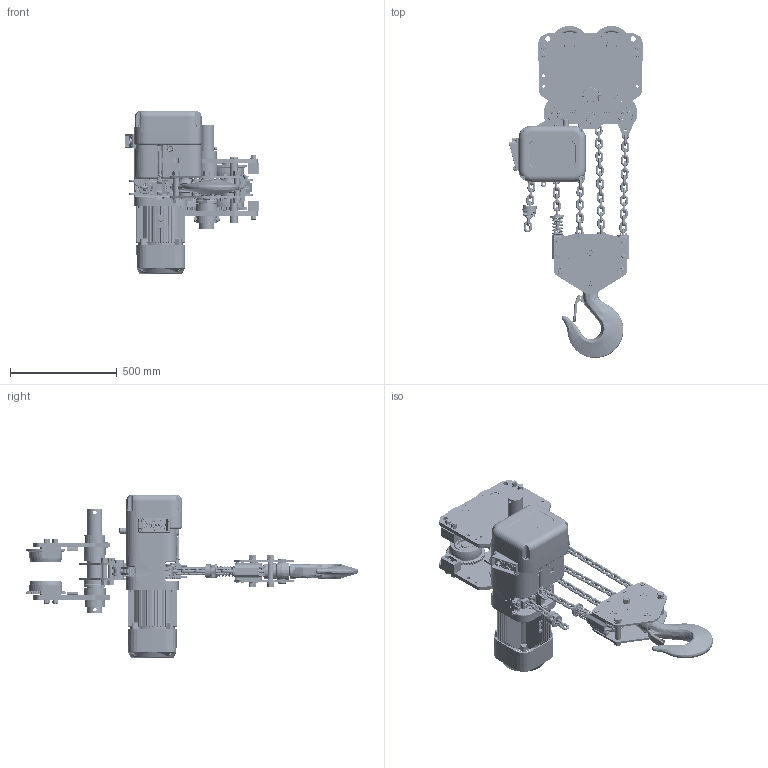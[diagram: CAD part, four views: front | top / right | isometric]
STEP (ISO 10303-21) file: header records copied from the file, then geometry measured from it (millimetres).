
FILE_DESCRIPTION (( 'STEP AP214' ), '1' );
FILE_NAME ('NER2P100L.STEP', '2026-08-05T15:16:40', ( '' ), ( '' ), 'SwSTEP 2.0', 'SolidWorks 2026', '' );
FILE_SCHEMA (( 'AUTOMOTIVE_DESIGN' ));
Length unit declared in the file: inch
Products named in the file (104): ER1HS90161; single coil rectangular section spring washer_bsi2_9012711; ER2BHM20I9A5; E6SE075S90663; MS561010; ER2HS90061; ER2FS9104_ER2FS9104; T3GA1009101; ER1EM9051; LCER2025 NP (SHAPED 2)_For SCC; 9012717_9012717; ER2FS9331; E6S023100; ER1HS90091; ER2BHM1QS9A6; 9012715_9012715; ER2IS50041; ER1EM9053; 9091255_9091255; ER2FS9105; LCER2025NP; PTS100_7" FLANGE; 9091271_9091271; socket head cap screw_am_9091274; T3GB1005112; ER2HS50521; ES558003; ER2IS91211; ES127005S; 9009436_9009436; 6308Z Bearing; T3GA1009112; ER2FS6122; hex nut style 1_am_9093445; basic internal retaining ring_am_J1SR000-00090; ER1FH9054; E3S111003; spring lock washer_2_jis_9012717; 9091254_9091254; T3GA1005111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
Assembly tree (331 placements, depth 4):
  NER2P100L
    ER2HS50051
      ER2HS90061
      ER1HS90161  x2
      ER2HS90051
    ER2IS50041
      ER2IS90041
      MAKESP-578293-03  x2
    ER2IS50031
      ER2IS90031
      ER1HS90091  x2
    E7SE075S90071  x4
    E6SE075S90081  x4
    ER1IL90171
    ER2025S_NO SUSPENDER
      ER2FS9104_ER2FS9104
      ER2FS9103
      ER2FS9101
      ER2FS9105
      ER2ES9107_ER2ES9107
      ER2FS9331
      ER2FS9338
      ER2FS9337
      ER2CS9357
      single coil rectangular section spring washer_bsi2_9012711  x4
      socket head cap screw_am_9091274  x4
      9091255_9091255  x4
      90912116_90912116  x4
      external tooth lock washer_am_PreviewCfg  x4
      9091254_9091254  x4
      ES127005S
      E3S112003
      E3S111003
      ER2EI4511
        ER2CS9511
        MS561010  x8
        ER2EI2523
        ER2EI2564
        ES558003  x8
      ER2FS6121
      ER2FS6122
      ER1EM9053
      ER1ES1041
      LCER2025 NP (SHAPED 2)_For SCC
        LCER2025NP  x12
      ER2BHM20I9A5
      ER2FS9296
      ER1BS1175
      ER2BHM1QS9A6
    E6SE075S90531
    ER1HS90561  x3
    9012711_9012711  x6
    9091271_9091271  x6
    9012717_9012717  x8
    9093445_9093445  x8
    PTS100_7" FLANGE
      T3GB1005112
        T3GA1009112
        T3GA1009118
        M6SE100S9114
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Bounding box: 628 x 1556.28 x 764.6 mm (x, y, z)
Volume: 53132336.1 mm3; surface area: 6224609.5 mm2
Topology: 335 solids, 355 shells, 12721 faces, 32093 edges, 20025 vertices
Faces by surface type: cylinder 4725, plane 4024, torus 1387, cone 1342, bspline 966, sphere 277
Entity records: 258852 total; most frequent: CARTESIAN_POINT 94779, DIRECTION 33170, ORIENTED_EDGE 32952, EDGE_CURVE 16478, AXIS2_PLACEMENT_3D 13083, VERTEX_POINT 10456, EDGE_LOOP 7192, LINE 7004
